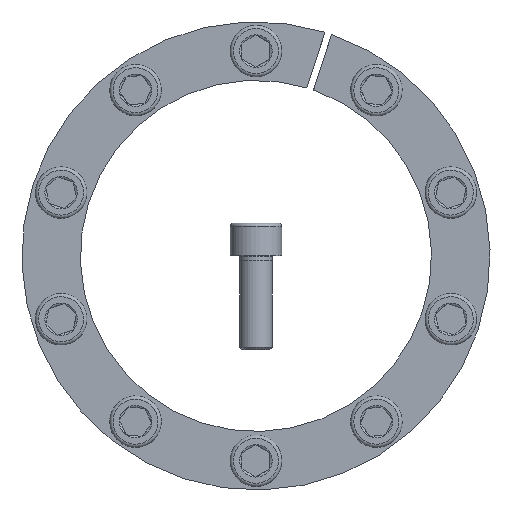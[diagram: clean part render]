
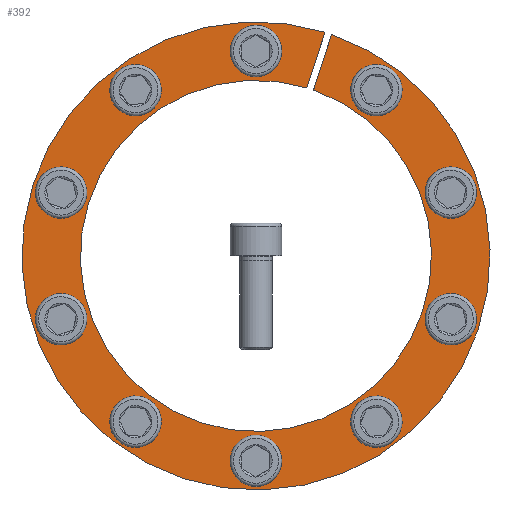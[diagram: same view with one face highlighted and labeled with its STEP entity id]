
A CAD part, front view. The second image highlights one B-rep face of the part: STEP entity #392.
In plain terms, the highlighted planar face has unit normal (0, -1, 0).
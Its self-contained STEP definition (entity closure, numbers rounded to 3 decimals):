
#392 = ADVANCED_FACE( '', ( #599, #600, #601, #602, #603, #604, #605, #606, #607, #608, #609 ), #610, .F. );
#599 = FACE_BOUND( '', #783, .T. );
#600 = FACE_BOUND( '', #784, .T. );
#601 = FACE_BOUND( '', #785, .T. );
#602 = FACE_BOUND( '', #786, .T. );
#603 = FACE_BOUND( '', #787, .T. );
#604 = FACE_OUTER_BOUND( '', #788, .T. );
#605 = FACE_BOUND( '', #789, .T. );
#606 = FACE_BOUND( '', #790, .T. );
#607 = FACE_BOUND( '', #791, .T. );
#608 = FACE_BOUND( '', #792, .T. );
#609 = FACE_BOUND( '', #793, .T. );
#610 = PLANE( '', #794 );
#783 = EDGE_LOOP( '', ( #1016 ) );
#784 = EDGE_LOOP( '', ( #1017 ) );
#785 = EDGE_LOOP( '', ( #1018 ) );
#786 = EDGE_LOOP( '', ( #1019 ) );
#787 = EDGE_LOOP( '', ( #1020 ) );
#788 = EDGE_LOOP( '', ( #1021, #1022, #1023, #1024 ) );
#789 = EDGE_LOOP( '', ( #1025 ) );
#790 = EDGE_LOOP( '', ( #1026 ) );
#791 = EDGE_LOOP( '', ( #1027 ) );
#792 = EDGE_LOOP( '', ( #1028 ) );
#793 = EDGE_LOOP( '', ( #1029 ) );
#794 = AXIS2_PLACEMENT_3D( '', #1030, #1031, #1032 );
#1016 = ORIENTED_EDGE( '', *, *, #1390, .T. );
#1017 = ORIENTED_EDGE( '', *, *, #1391, .T. );
#1018 = ORIENTED_EDGE( '', *, *, #1392, .T. );
#1019 = ORIENTED_EDGE( '', *, *, #1393, .T. );
#1020 = ORIENTED_EDGE( '', *, *, #1394, .T. );
#1021 = ORIENTED_EDGE( '', *, *, #1388, .F. );
#1022 = ORIENTED_EDGE( '', *, *, #1384, .F. );
#1023 = ORIENTED_EDGE( '', *, *, #1395, .T. );
#1024 = ORIENTED_EDGE( '', *, *, #1396, .F. );
#1025 = ORIENTED_EDGE( '', *, *, #1397, .T. );
#1026 = ORIENTED_EDGE( '', *, *, #1398, .T. );
#1027 = ORIENTED_EDGE( '', *, *, #1399, .T. );
#1028 = ORIENTED_EDGE( '', *, *, #1400, .T. );
#1029 = ORIENTED_EDGE( '', *, *, #1401, .T. );
#1030 = CARTESIAN_POINT( '', ( 0., 0., 100. ) );
#1031 = DIRECTION( '', ( 0., 1., 0. ) );
#1032 = DIRECTION( '', ( 0., 0., 1. ) );
#1384 = EDGE_CURVE( '', #1527, #1529, #1530, .T. );
#1388 = EDGE_CURVE( '', #1529, #1536, #1537, .T. );
#1390 = EDGE_CURVE( '', #1539, #1539, #1540, .T. );
#1391 = EDGE_CURVE( '', #1541, #1541, #1542, .T. );
#1392 = EDGE_CURVE( '', #1543, #1543, #1544, .T. );
#1393 = EDGE_CURVE( '', #1545, #1545, #1546, .T. );
#1394 = EDGE_CURVE( '', #1547, #1547, #1548, .T. );
#1395 = EDGE_CURVE( '', #1527, #1549, #1550, .T. );
#1396 = EDGE_CURVE( '', #1536, #1549, #1551, .T. );
#1397 = EDGE_CURVE( '', #1552, #1552, #1553, .T. );
#1398 = EDGE_CURVE( '', #1554, #1554, #1555, .T. );
#1399 = EDGE_CURVE( '', #1556, #1556, #1557, .T. );
#1400 = EDGE_CURVE( '', #1558, #1558, #1559, .T. );
#1401 = EDGE_CURVE( '', #1560, #1560, #1561, .T. );
#1527 = VERTEX_POINT( '', #1671 );
#1529 = VERTEX_POINT( '', #1674 );
#1530 = LINE( '', #1675, #1676 );
#1536 = VERTEX_POINT( '', #1684 );
#1537 = CIRCLE( '', #1685, 75. );
#1539 = VERTEX_POINT( '', #1688 );
#1540 = CIRCLE( '', #1689, 7. );
#1541 = VERTEX_POINT( '', #1690 );
#1542 = CIRCLE( '', #1691, 7. );
#1543 = VERTEX_POINT( '', #1692 );
#1544 = CIRCLE( '', #1693, 7. );
#1545 = VERTEX_POINT( '', #1694 );
#1546 = CIRCLE( '', #1695, 7. );
#1547 = VERTEX_POINT( '', #1696 );
#1548 = CIRCLE( '', #1697, 7. );
#1549 = VERTEX_POINT( '', #1698 );
#1550 = CIRCLE( '', #1699, 100. );
#1551 = LINE( '', #1700, #1701 );
#1552 = VERTEX_POINT( '', #1702 );
#1553 = CIRCLE( '', #1703, 7. );
#1554 = VERTEX_POINT( '', #1704 );
#1555 = CIRCLE( '', #1705, 7. );
#1556 = VERTEX_POINT( '', #1706 );
#1557 = CIRCLE( '', #1707, 7. );
#1558 = VERTEX_POINT( '', #1708 );
#1559 = CIRCLE( '', #1709, 7. );
#1560 = VERTEX_POINT( '', #1710 );
#1561 = CIRCLE( '', #1711, 7. );
#1671 = CARTESIAN_POINT( '', ( 29.472, 0., 95.558 ) );
#1674 = CARTESIAN_POINT( '', ( 21.745, 0., 71.778 ) );
#1675 = CARTESIAN_POINT( '', ( 29.475, 0., 95.569 ) );
#1676 = VECTOR( '', #1810, 1000. );
#1684 = CARTESIAN_POINT( '', ( 24.598, 0., 70.851 ) );
#1685 = AXIS2_PLACEMENT_3D( '', #1816, #1817, #1818 );
#1688 = CARTESIAN_POINT( '', ( -81.054, 0., 33.696 ) );
#1689 = AXIS2_PLACEMENT_3D( '', #1820, #1821, #1822 );
#1690 = CARTESIAN_POINT( '', ( -57.094, 0., -66.674 ) );
#1691 = AXIS2_PLACEMENT_3D( '', #1823, #1824, #1825 );
#1692 = CARTESIAN_POINT( '', ( 45.768, 0., -74.903 ) );
#1693 = AXIS2_PLACEMENT_3D( '', #1826, #1827, #1828 );
#1694 = CARTESIAN_POINT( '', ( 85.381, 0., 20.382 ) );
#1695 = AXIS2_PLACEMENT_3D( '', #1829, #1830, #1831 );
#1696 = CARTESIAN_POINT( '', ( 7., 0., 87.5 ) );
#1697 = AXIS2_PLACEMENT_3D( '', #1832, #1833, #1834 );
#1698 = CARTESIAN_POINT( '', ( 32.325, 0., 94.631 ) );
#1699 = AXIS2_PLACEMENT_3D( '', #1835, #1836, #1837 );
#1700 = CARTESIAN_POINT( '', ( 24.598, 0., 70.851 ) );
#1701 = VECTOR( '', #1838, 1000. );
#1702 = CARTESIAN_POINT( '', ( 57.094, 0., 66.674 ) );
#1703 = AXIS2_PLACEMENT_3D( '', #1839, #1840, #1841 );
#1704 = CARTESIAN_POINT( '', ( 81.054, 0., -33.696 ) );
#1705 = AXIS2_PLACEMENT_3D( '', #1842, #1843, #1844 );
#1706 = CARTESIAN_POINT( '', ( -7., 0., -87.5 ) );
#1707 = AXIS2_PLACEMENT_3D( '', #1845, #1846, #1847 );
#1708 = CARTESIAN_POINT( '', ( -85.381, 0., -20.382 ) );
#1709 = AXIS2_PLACEMENT_3D( '', #1848, #1849, #1850 );
#1710 = CARTESIAN_POINT( '', ( -45.768, 0., 74.903 ) );
#1711 = AXIS2_PLACEMENT_3D( '', #1851, #1852, #1853 );
#1810 = DIRECTION( '', ( -0.309, 0., -0.951 ) );
#1816 = CARTESIAN_POINT( '', ( 0., 0., 0. ) );
#1817 = DIRECTION( '', ( 0., -1., 0. ) );
#1818 = DIRECTION( '', ( 0., 0., -1. ) );
#1820 = CARTESIAN_POINT( '', ( -83.217, 0., 27.039 ) );
#1821 = DIRECTION( '', ( 0., 1., 0. ) );
#1822 = DIRECTION( '', ( 0.309, 0., 0.951 ) );
#1823 = CARTESIAN_POINT( '', ( -51.431, 0., -70.789 ) );
#1824 = DIRECTION( '', ( 0., 1., 0. ) );
#1825 = DIRECTION( '', ( -0.809, 0., 0.588 ) );
#1826 = CARTESIAN_POINT( '', ( 51.431, 0., -70.789 ) );
#1827 = DIRECTION( '', ( 0., 1., 0. ) );
#1828 = DIRECTION( '', ( -0.809, 0., -0.588 ) );
#1829 = CARTESIAN_POINT( '', ( 83.217, 0., 27.039 ) );
#1830 = DIRECTION( '', ( 0., 1., 0. ) );
#1831 = DIRECTION( '', ( 0.309, 0., -0.951 ) );
#1832 = CARTESIAN_POINT( '', ( 0., 0., 87.5 ) );
#1833 = DIRECTION( '', ( 0., 1., 0. ) );
#1834 = DIRECTION( '', ( 1., 0., 0. ) );
#1835 = CARTESIAN_POINT( '', ( 0., 0., 0. ) );
#1836 = DIRECTION( '', ( 0., -1., 0. ) );
#1837 = DIRECTION( '', ( 0., 0., -1. ) );
#1838 = DIRECTION( '', ( 0.309, 0., 0.951 ) );
#1839 = CARTESIAN_POINT( '', ( 51.431, 0., 70.789 ) );
#1840 = DIRECTION( '', ( 0., 1., 0. ) );
#1841 = DIRECTION( '', ( 0.809, 0., -0.588 ) );
#1842 = CARTESIAN_POINT( '', ( 83.217, 0., -27.039 ) );
#1843 = DIRECTION( '', ( 0., 1., 0. ) );
#1844 = DIRECTION( '', ( -0.309, 0., -0.951 ) );
#1845 = CARTESIAN_POINT( '', ( 0., 0., -87.5 ) );
#1846 = DIRECTION( '', ( 0., 1., 0. ) );
#1847 = DIRECTION( '', ( -1., 0., 0. ) );
#1848 = CARTESIAN_POINT( '', ( -83.217, 0., -27.039 ) );
#1849 = DIRECTION( '', ( 0., 1., 0. ) );
#1850 = DIRECTION( '', ( -0.309, 0., 0.951 ) );
#1851 = CARTESIAN_POINT( '', ( -51.431, 0., 70.789 ) );
#1852 = DIRECTION( '', ( 0., 1., 0. ) );
#1853 = DIRECTION( '', ( 0.809, 0., 0.588 ) );
